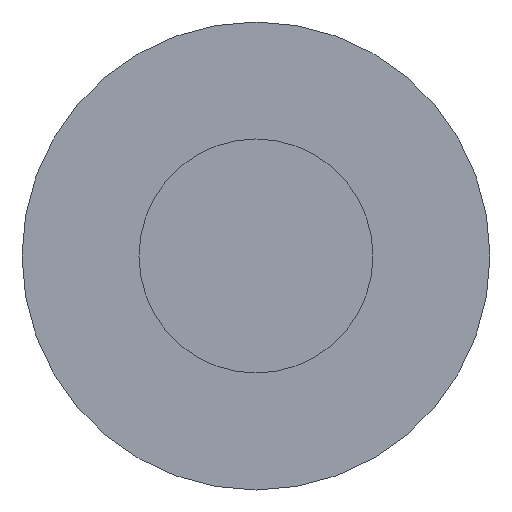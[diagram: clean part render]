
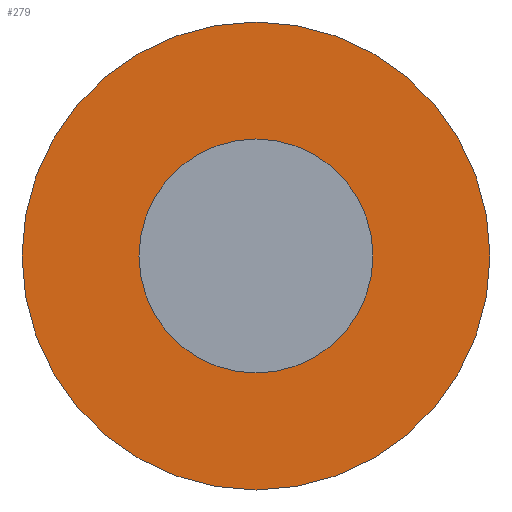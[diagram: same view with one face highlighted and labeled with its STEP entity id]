
A CAD part, front view. The second image highlights one B-rep face of the part: STEP entity #279.
In plain terms, the highlighted planar face has unit normal (0, -1, 0).
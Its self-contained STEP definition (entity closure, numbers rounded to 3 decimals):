
#31 = CYLINDRICAL_SURFACE('',#32,0.8);
#32 = AXIS2_PLACEMENT_3D('',#33,#34,#35);
#33 = CARTESIAN_POINT('',(0.,15.,11.2));
#34 = DIRECTION('',(0.,1.,0.));
#35 = DIRECTION('',(0.,0.,1.));
#56 = VERTEX_POINT('',#57);
#57 = CARTESIAN_POINT('',(0.,15.,12.));
#78 = EDGE_CURVE('',#56,#56,#79,.T.);
#79 = SURFACE_CURVE('',#80,(#85,#92),.PCURVE_S1.);
#80 = CIRCLE('',#81,0.8);
#81 = AXIS2_PLACEMENT_3D('',#82,#83,#84);
#82 = CARTESIAN_POINT('',(0.,15.,11.2));
#83 = DIRECTION('',(0.,1.,-0.));
#84 = DIRECTION('',(0.,0.,1.));
#85 = PCURVE('',#31,#86);
#86 = DEFINITIONAL_REPRESENTATION('',(#87),#91);
#87 = LINE('',#88,#89);
#88 = CARTESIAN_POINT('',(0.,0.));
#89 = VECTOR('',#90,1.);
#90 = DIRECTION('',(1.,0.));
#91 = ( GEOMETRIC_REPRESENTATION_CONTEXT(2) 
PARAMETRIC_REPRESENTATION_CONTEXT() REPRESENTATION_CONTEXT('2D SPACE',''
  ) );
#92 = PCURVE('',#93,#98);
#93 = PLANE('',#94);
#94 = AXIS2_PLACEMENT_3D('',#95,#96,#97);
#95 = CARTESIAN_POINT('',(0.,15.,11.2));
#96 = DIRECTION('',(0.,1.,0.));
#97 = DIRECTION('',(0.,0.,1.));
#98 = DEFINITIONAL_REPRESENTATION('',(#99),#103);
#99 = CIRCLE('',#100,0.8);
#100 = AXIS2_PLACEMENT_2D('',#101,#102);
#101 = CARTESIAN_POINT('',(0.,0.));
#102 = DIRECTION('',(1.,0.));
#103 = ( GEOMETRIC_REPRESENTATION_CONTEXT(2) 
PARAMETRIC_REPRESENTATION_CONTEXT() REPRESENTATION_CONTEXT('2D SPACE',''
  ) );
#279 = ADVANCED_FACE('',(#280,#283),#93,.F.);
#280 = FACE_BOUND('',#281,.F.);
#281 = EDGE_LOOP('',(#282));
#282 = ORIENTED_EDGE('',*,*,#78,.T.);
#283 = FACE_BOUND('',#284,.F.);
#284 = EDGE_LOOP('',(#285));
#285 = ORIENTED_EDGE('',*,*,#286,.F.);
#286 = EDGE_CURVE('',#287,#287,#289,.T.);
#287 = VERTEX_POINT('',#288);
#288 = CARTESIAN_POINT('',(0.,15.,11.6));
#289 = SURFACE_CURVE('',#290,(#295,#302),.PCURVE_S1.);
#290 = CIRCLE('',#291,0.4);
#291 = AXIS2_PLACEMENT_3D('',#292,#293,#294);
#292 = CARTESIAN_POINT('',(0.,15.,11.2));
#293 = DIRECTION('',(0.,1.,-0.));
#294 = DIRECTION('',(0.,0.,1.));
#295 = PCURVE('',#93,#296);
#296 = DEFINITIONAL_REPRESENTATION('',(#297),#301);
#297 = CIRCLE('',#298,0.4);
#298 = AXIS2_PLACEMENT_2D('',#299,#300);
#299 = CARTESIAN_POINT('',(0.,0.));
#300 = DIRECTION('',(1.,0.));
#301 = ( GEOMETRIC_REPRESENTATION_CONTEXT(2) 
PARAMETRIC_REPRESENTATION_CONTEXT() REPRESENTATION_CONTEXT('2D SPACE',''
  ) );
#302 = PCURVE('',#303,#308);
#303 = CYLINDRICAL_SURFACE('',#304,0.4);
#304 = AXIS2_PLACEMENT_3D('',#305,#306,#307);
#305 = CARTESIAN_POINT('',(0.,14.25,11.2));
#306 = DIRECTION('',(0.,1.,0.));
#307 = DIRECTION('',(0.,0.,1.));
#308 = DEFINITIONAL_REPRESENTATION('',(#309),#313);
#309 = LINE('',#310,#311);
#310 = CARTESIAN_POINT('',(0.,0.75));
#311 = VECTOR('',#312,1.);
#312 = DIRECTION('',(1.,0.));
#313 = ( GEOMETRIC_REPRESENTATION_CONTEXT(2) 
PARAMETRIC_REPRESENTATION_CONTEXT() REPRESENTATION_CONTEXT('2D SPACE',''
  ) );
